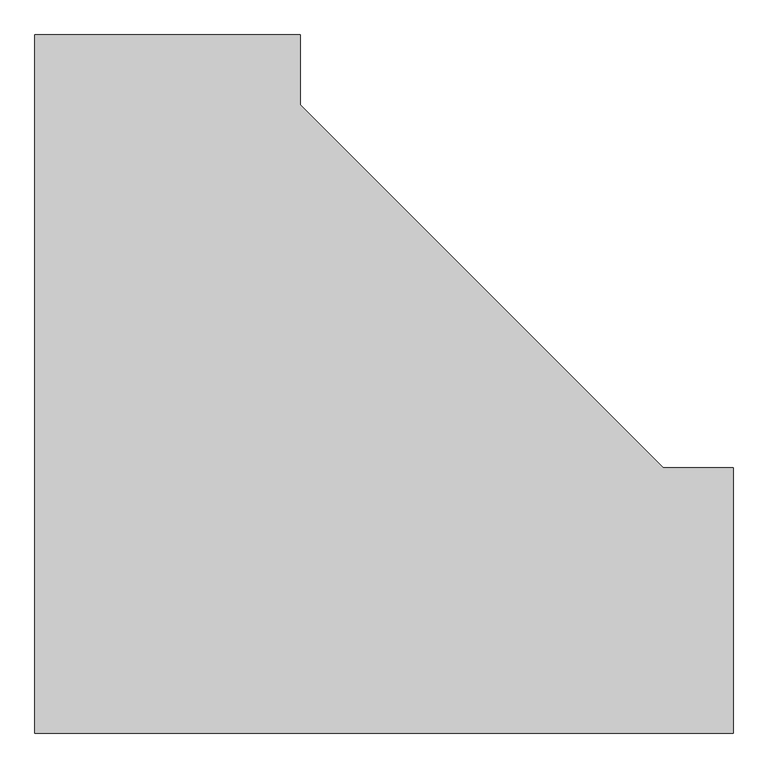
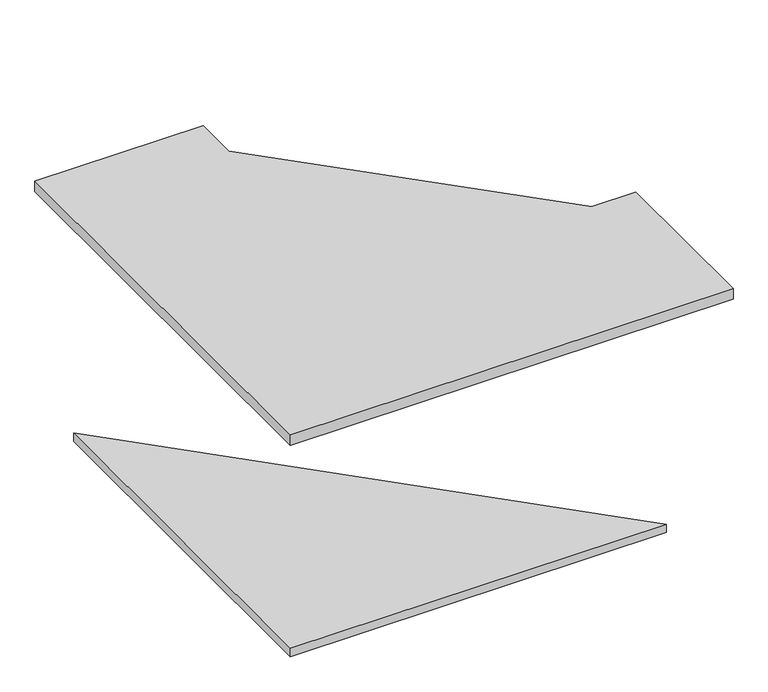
"""IFC4 building model written with IfcOpenShell, lengths in millimetres: proxy geometry, BIMHealth-Corner_Desk-LOD2A-v1 : BIMHealth-Corner_Desk-LOD2A-v1."""

from ifc_helpers import new_model, si_unit, frame, origin, place, context, project, spatial, polyline, outline, extrude, source, transform, mapped, element, save


def generic_models_a019e9e6(model_context):
    return source(origin(), model_context, "Body", "SweptSolid", [
        extrude(outline(polyline([(0.0, 848.5281374), (848.5281374, 0.0), (0.0, 0.0), (0.0, 848.5281374)])), frame((0.0, 0.0, 330.0), z_axis=(0.0, 0.0, 1.0), x_axis=(1.0, 0.0, 0.0)), (0.0, 0.0, 1.0), 20.0),
        extrude(outline(polyline([(1000.0, 0.0), (0.0, 0.0), (0.0, 1000.0), (380.0, 1000.0), (380.0, 900.0), (900.0, 380.0), (1000.0, 380.0), (1000.0, 0.0)])), frame((0.0, 0.0, 835.0), z_axis=(0.0, 0.0, 1.0), x_axis=(1.0, 0.0, 0.0)), (0.0, 0.0, 1.0), 25.0),
    ])


if __name__ == "__main__":
    model = new_model("IFC4")
    model_context = context("Model", 3, world=origin())
    ifc_project = project(units=[si_unit("LENGTHUNIT", "METRE", prefix="MILLI")], contexts=[model_context])
    site = spatial("IfcSite", under=ifc_project)
    building = spatial("IfcBuilding", under=site)
    placement = place(None, origin())
    generic_models_shape = generic_models_a019e9e6(model_context)
    element("IfcBuildingElementProxy", 1, Name="BIMHealth-Corner_Desk-LOD2A-v1 : BIMHealth-Corner_Desk-LOD2A-v1", ObjectType="BIMHealth-Corner_Desk-LOD2A-v1 : BIMHealth-Corner_Desk-LOD2A-v1", at=placement, inside=building, context=model_context, shape_type="MappedRepresentation", body=[
        mapped(generic_models_shape, transform((0.0, 0.0, 0.0), x_axis=(1.0, 0.0, 0.0), y_axis=(0.0, 1.0, 0.0), z_axis=(0.0, 0.0, 1.0))),
    ])
    save(model, "model.ifc")
